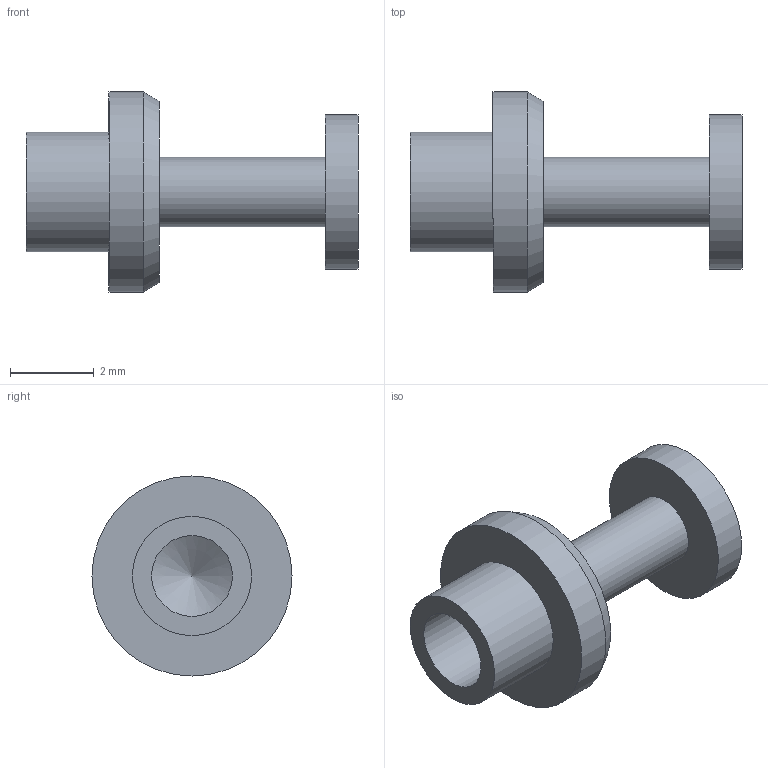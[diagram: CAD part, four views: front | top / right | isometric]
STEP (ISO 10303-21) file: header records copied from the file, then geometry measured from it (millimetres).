
FILE_DESCRIPTION(/* description */ (''),/* implementation_level */ '2;1');
FILE_NAME(/* name */ 'Z:\STEP folder\160-1245-01.ipt.stp',/* time_stamp */ '2016-12-07T10:46:46+00:00',/* author */ ('Paul Karlsons'),/* organization */ (''),/* preprocessor_version */ 'ST-DEVELOPER v15.2',/* originating_system */ 'Autodesk Inventor 2014',/* authorisation */ '');
FILE_SCHEMA (('AUTOMOTIVE_DESIGN { 1 0 10303 214 3 1 1 }'));
Length unit declared in the file: millimetre
Products named in the file (1): 160-1245-01
Bounding box: 7.92 x 4.78 x 4.78 mm (x, y, z)
Volume: 44.6 mm3; surface area: 126.5 mm2
Topology: 1 solids, 1 shells, 12 faces, 19 edges, 12 vertices
Faces by surface type: cylinder 5, plane 5, cone 2
Full cylindrical faces by diameter (mm): 1.651 x1, 1.93 x1, 2.845 x1, 3.683 x1, 4.775 x1
Entity records: 255 total; most frequent: DIRECTION 48, CARTESIAN_POINT 35, AXIS2_PLACEMENT_3D 24, EDGE_LOOP 22, ORIENTED_EDGE 22, FACE_BOUND 12, ADVANCED_FACE 12, CIRCLE 11
